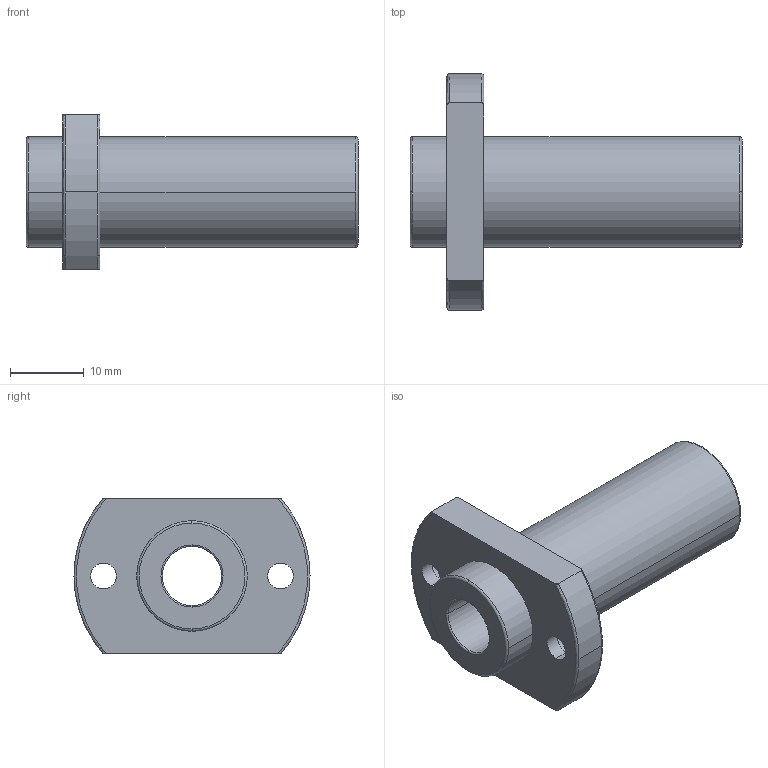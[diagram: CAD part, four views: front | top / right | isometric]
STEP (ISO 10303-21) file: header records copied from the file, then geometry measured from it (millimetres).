
FILE_DESCRIPTION(('FreeCAD Model'),'2;1');
FILE_NAME('Open CASCADE Shape Model','2021-05-03T14:44:00',('Author'),( ''),'Open CASCADE STEP processor 7.5','FreeCAD','Unknown');
FILE_SCHEMA(('AUTOMOTIVE_DESIGN { 1 0 10303 214 1 1 1 1 }'));
Length unit declared in the file: millimetre
Products named in the file (1): linear_lmhp8luu
Bounding box: 45 x 32 x 21 mm (x, y, z)
Volume: 7690.4 mm3; surface area: 4715.8 mm2
Topology: 1 solids, 1 shells, 38 faces, 100 edges, 68 vertices
Faces by surface type: cylinder 18, torus 12, plane 8
Entity records: 3120 total; most frequent: CARTESIAN_POINT 1083, DIRECTION 400, ORIENTED_EDGE 200, PCURVE 200, DEFINITIONAL_REPRESENTATION 200, LINE 172, VECTOR 172, AXIS2_PLACEMENT_3D 107
